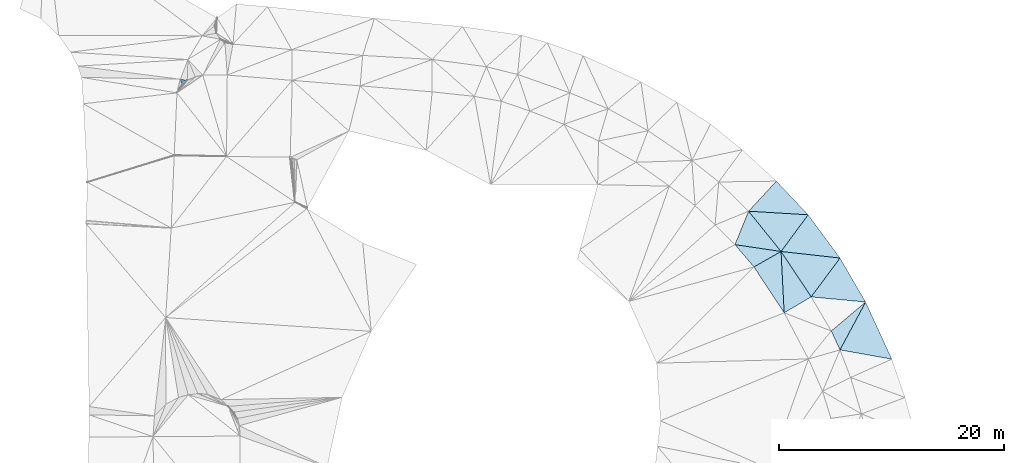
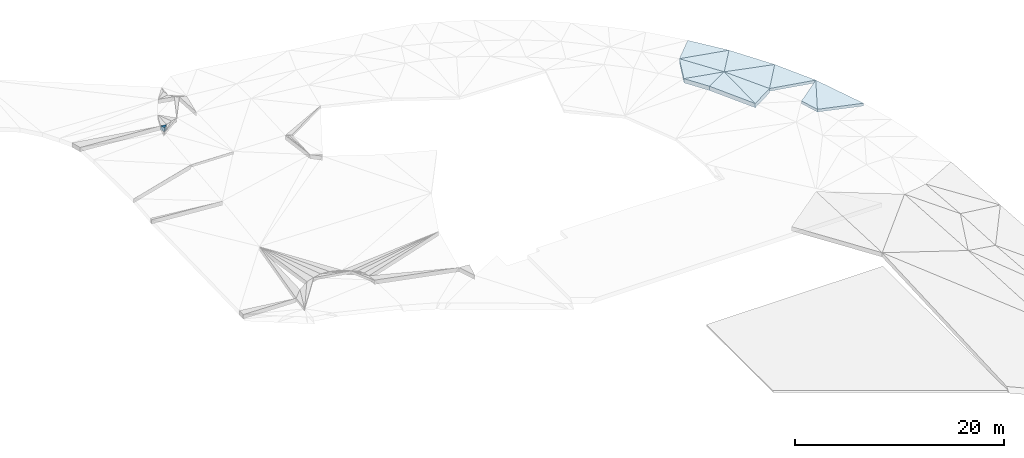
# One storey, part 11 of 23: 12 slabs, 2 elements without a shape of their own.
"""IFC2X3 building model written with IfcOpenShell, lengths in metres."""

from ifc_helpers import new_model, entity, si_unit, converted_unit, direction, frame, origin, place, context, subcontext, project, spatial, polyline, outline, extrude, material, layer, layer_set, type_object, element, aggregate, save


model = new_model("IFC2X3")

# Units and contexts
model_context = context("Model", 3, precision=1e-05, world=origin(), true_north=direction((0.7716245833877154, 0.6360782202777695)))
body_context = subcontext(model_context, "Body", "Model", "MODEL_VIEW")
ifc_project = project(units=[si_unit("LENGTHUNIT", "METRE"), converted_unit("PLANEANGLEUNIT", "DEGREE", entity("IfcPlaneAngleMeasure", 0.017453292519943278), si_unit("PLANEANGLEUNIT", "RADIAN"), dimensions=[0, 0, 0, 0, 0, 0, 0]), si_unit("AREAUNIT", "SQUARE_METRE")], contexts=[model_context])

# Site, building, storey
site_placement = place(None, origin())
site = spatial("IfcSite", under=ifc_project, at=site_placement, Name="Default", CompositionType="ELEMENT")
building_placement = place(site_placement, origin())
building = spatial("IfcBuilding", under=site, at=building_placement, Name="<Building Name>", CompositionType="ELEMENT")
storey_placement = place(building_placement, origin())
storey = spatial("IfcBuildingStorey", under=building, at=storey_placement, Name="00 - HAV", CompositionType="ELEMENT", Elevation=0.0)

# Slabs
slab_1_placement = place(storey_placement, frame((227.93461709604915, 49.93152636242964, 29.770000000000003)))
slab_1 = element("IfcSlab", 1, at=slab_1_placement, inside=storey, Name="Floor:771 Grøntarealer", ObjectType="Floor:771 Grøntarealer", PredefinedType="NOTDEFINED")
ifc_material_1 = material(Name="815 - Terrain, Grøntareal")
ifc_layer_1 = layer(ifc_material_1, 0.02)
ifc_material_2 = material(Name="Site - Soil - Jordlag")
ifc_layer_2 = layer(ifc_material_2, 0.30000000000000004)
ifc_layer_set_1 = layer_set([ifc_layer_1, ifc_layer_2], Name="Floor:771 Grøntarealer")
slab_type_1 = type_object("IfcSlabType", Name="Floor:771 Grøntarealer", PredefinedType="NOTDEFINED")
slab_2_placement = place(slab_1_placement, origin())
slab_2 = element("IfcSlab", 2, at=slab_2_placement, type_object=slab_type_1, material=ifc_layer_set_1, Name="Floor:771 Grøntarealer", ObjectType="Floor:771 Grøntarealer", PredefinedType="NOTDEFINED", context=body_context, shape_type="SweptSolid", body=[
    extrude(outline(polyline([(2.914133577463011, -1.739874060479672), (0.5820158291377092, 3.3437394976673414), (-1.7023409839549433, -0.9016243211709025), (2.914133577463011, -1.739874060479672)])), frame((57.18283415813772, 59.28913969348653, 4.231716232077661), z_axis=(0.07785830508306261, -0.04876212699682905, 0.9957712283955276), x_axis=(0.9969644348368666, 0.003808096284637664, -0.07776512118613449)), (0.07776512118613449, -0.04891059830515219, -0.9957712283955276), 0.3200000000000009),
])
slab_3_placement = place(slab_1_placement, origin())
slab_3 = element("IfcSlab", 3, at=slab_3_placement, type_object=slab_type_1, material=ifc_layer_set_1, Name="Floor:771 Grøntarealer", ObjectType="Floor:771 Grøntarealer", PredefinedType="NOTDEFINED", context=body_context, shape_type="SweptSolid", body=[
    extrude(outline(polyline([(2.8506971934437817, -0.9558728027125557), (0.5679117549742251, 2.952565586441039), (-2.004928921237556, -0.4921972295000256), (2.8506971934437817, -0.9558728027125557)])), frame((54.92382802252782, 63.58391832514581, 4.61631229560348), z_axis=(0.08950632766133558, -0.011643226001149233, 0.9959181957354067), x_axis=(0.9959862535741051, 0.001046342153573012, -0.08950021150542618)), (0.08950021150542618, -0.011690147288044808, -0.9959181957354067), 0.3200000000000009),
])
slab_4_placement = place(slab_1_placement, origin())
slab_4 = element("IfcSlab", 4, at=slab_4_placement, type_object=slab_type_1, material=ifc_layer_set_1, Name="Floor:771 Grøntarealer", ObjectType="Floor:771 Grøntarealer", PredefinedType="NOTDEFINED", context=body_context, shape_type="SweptSolid", body=[
    extrude(outline(polyline([(1.1482541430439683, 2.1194014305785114), (-1.93067311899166, -0.42655750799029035), (-1.148254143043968, -2.1194014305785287), (1.1482541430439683, 2.1194014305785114)])), frame((56.62437199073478, 60.50660271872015, 4.335000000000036), z_axis=(0.12865652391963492, -0.07594021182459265, 0.9887773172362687), x_axis=(0.9916892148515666, 0.009852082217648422, -0.12827874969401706)), (0.12827874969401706, -0.07657662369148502, -0.9887773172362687), 0.3200000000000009),
])
slab_5_placement = place(slab_1_placement, origin())
slab_5 = element("IfcSlab", 5, at=slab_5_placement, type_object=slab_type_1, material=ifc_layer_set_1, Name="Floor:771 Grøntarealer", ObjectType="Floor:771 Grøntarealer", PredefinedType="NOTDEFINED", context=body_context, shape_type="SweptSolid", body=[
    extrude(outline(polyline([(2.985511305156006, -0.7597663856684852), (0.13790446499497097, 3.0775810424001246), (-2.288689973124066, -0.17924861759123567), (2.985511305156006, -0.7597663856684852)])), frame((52.52543854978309, 67.29766899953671, 4.955376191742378), z_axis=(0.11976673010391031, 0.002858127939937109, 0.9927979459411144), x_axis=(0.9928020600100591, -0.0003447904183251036, -0.11976623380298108)), (0.11976623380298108, 0.0028788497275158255, -0.9927979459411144), 0.3200000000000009),
])
slab_6_placement = place(slab_1_placement, origin())
slab_6 = element("IfcSlab", 6, at=slab_6_placement, type_object=slab_type_1, material=ifc_layer_set_1, Name="Floor:771 Grøntarealer", ObjectType="Floor:771 Grøntarealer", PredefinedType="NOTDEFINED", context=body_context, shape_type="SweptSolid", body=[
    extrude(outline(polyline([(2.846354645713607, 1.5420045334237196), (-2.4254375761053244, 2.144006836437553), (0.2664410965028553, -1.89746433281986), (2.846354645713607, 1.5420045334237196)])), frame((52.66230222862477, 64.98518979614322, 4.880995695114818), z_axis=(0.11594408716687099, -0.03147014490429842, 0.9927570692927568), x_axis=(0.9932557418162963, 0.0036735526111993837, -0.11588587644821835)), (0.11588587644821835, -0.03168382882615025, -0.9927570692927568), 0.3200000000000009),
])
slab_7_placement = place(slab_1_placement, origin())
slab_7 = element("IfcSlab", 7, at=slab_7_placement, type_object=slab_type_1, material=ifc_layer_set_1, Name="Floor:771 Grøntarealer", ObjectType="Floor:771 Grøntarealer", PredefinedType="NOTDEFINED", context=body_context, shape_type="SweptSolid", body=[
    extrude(outline(polyline([(2.740825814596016, -0.23346278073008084), (-0.10591597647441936, 2.748711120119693), (-2.591967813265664, 0.0775229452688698), (2.740825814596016, -0.23346278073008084)])), frame((49.9434437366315, 70.61203878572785, 5.273627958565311), z_axis=(0.12621653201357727, 0.009742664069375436, 0.9919548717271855), x_axis=(0.9920027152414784, -0.0012395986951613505, -0.12621044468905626)), (0.12621044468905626, 0.009821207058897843, -0.9919548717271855), 0.3200000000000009),
])
slab_8_placement = place(slab_1_placement, origin())
slab_8 = element("IfcSlab", 8, at=slab_8_placement, type_object=slab_type_1, material=ifc_layer_set_1, Name="Floor:771 Grøntarealer", ObjectType="Floor:771 Grøntarealer", PredefinedType="NOTDEFINED", context=body_context, shape_type="SweptSolid", body=[
    extrude(outline(polyline([(2.7673983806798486, 1.5349623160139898), (-2.56494640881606, 1.8535514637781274), (0.33905302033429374, -1.720562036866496), (2.7673983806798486, 1.5349623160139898)])), frame((49.91685260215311, 68.83970626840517, 5.27516015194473), z_axis=(0.12555852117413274, -0.0014929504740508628, 0.9920850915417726), x_axis=(0.9920862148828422, 0.00018894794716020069, -0.12555837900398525)), (0.12555837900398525, -0.0015048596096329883, -0.9920850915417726), 0.3200000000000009),
])
aggregate(slab_1, [slab_2, slab_3, slab_4, slab_5, slab_6, slab_7, slab_8])

slab_9_placement = place(storey_placement, frame((224.56733296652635, 45.19076679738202, 29.34)))
slab_9 = element("IfcSlab", 9, at=slab_9_placement, inside=storey, Name="Floor:761 Asfalt - Gangarealer", ObjectType="Floor:761 Asfalt - Gangarealer", PredefinedType="NOTDEFINED")
ifc_material_3 = material(Name="Site - Aspahlt - Pulverasfalt")
ifc_layer_3 = layer(ifc_material_3, 0.025)
ifc_material_4 = material(Name="A_Default_Building_Part")
ifc_layer_4 = layer(ifc_material_4, 0.05)
ifc_material_5 = material(Name="Site - Gravel - Stabilitet grus")
ifc_layer_5 = layer(ifc_material_5, 0.1)
ifc_material_6 = material(Name="Site - Gravel - Bunnsikringsgrus")
ifc_layer_6 = layer(ifc_material_6, 0.325)
ifc_layer_set_2 = layer_set([ifc_layer_3, ifc_layer_4, ifc_layer_5, ifc_layer_6], Name="Floor:761 Asfalt - Gangarealer")
slab_type_2 = type_object("IfcSlabType", Name="Floor:761 Asfalt - Gangarealer", PredefinedType="NOTDEFINED")
slab_10_placement = place(slab_9_placement, origin())
slab_10 = element("IfcSlab", 10, at=slab_10_placement, type_object=slab_type_2, material=ifc_layer_set_2, Name="Floor:761 Asfalt - Gangarealer", ObjectType="Floor:761 Asfalt - Gangarealer", PredefinedType="NOTDEFINED", context=body_context, shape_type="SweptSolid", body=[
    extrude(outline(polyline([(-0.34364048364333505, 0.13990618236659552), (-0.1822167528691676, -0.32320206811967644), (0.2794137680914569, 0.044353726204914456), (-0.34364048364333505, 0.13990618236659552)])), frame((0.6445588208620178, 87.00547202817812, 8.758439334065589), z_axis=(-0.006976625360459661, 0.0087617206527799, 0.9999372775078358), x_axis=(0.9999756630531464, 6.112873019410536e-05, 0.006976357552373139)), (-0.006976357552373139, 0.008761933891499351, -0.9999372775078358), 0.49999999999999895),
])
slab_11_placement = place(slab_9_placement, origin())
slab_11 = element("IfcSlab", 11, at=slab_11_placement, type_object=slab_type_2, material=ifc_layer_set_2, Name="Floor:761 Asfalt - Gangarealer", ObjectType="Floor:761 Asfalt - Gangarealer", PredefinedType="NOTDEFINED", context=body_context, shape_type="SweptSolid", body=[
    extrude(outline(polyline([(-2.0477690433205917, 0.3151459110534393), (-0.36088563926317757, -1.6834596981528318), (2.0477690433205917, -0.3151459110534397), (-2.0477690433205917, 0.3151459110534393)])), frame((51.5754264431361, 72.16344520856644, 5.795000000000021), z_axis=(0.0512296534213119, -0.09693501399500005, 0.9939713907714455), x_axis=(0.9986868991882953, 0.00497247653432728, -0.050987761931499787)), (0.050987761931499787, -0.0970624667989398, -0.9939713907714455), 0.49999999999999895),
])
slab_12_placement = place(slab_9_placement, origin())
slab_12 = element("IfcSlab", 12, at=slab_12_placement, type_object=slab_type_2, material=ifc_layer_set_2, Name="Floor:761 Asfalt - Gangarealer", ObjectType="Floor:761 Asfalt - Gangarealer", PredefinedType="NOTDEFINED", context=body_context, shape_type="SweptSolid", body=[
    extrude(outline(polyline([(-2.2820434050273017, -1.2294733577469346), (1.8148579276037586, -1.8508423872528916), (-1.0709081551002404, 1.738008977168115), (-2.2820434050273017, -1.2294733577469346)])), frame((51.808634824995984, 73.70185779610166, 5.86951443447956), z_axis=(0.05734214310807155, -0.0569699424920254, 0.9967277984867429), x_axis=(0.998354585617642, 0.003272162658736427, -0.057248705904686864)), (0.057248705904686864, -0.05706383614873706, -0.9967277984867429), 0.49999999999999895),
])
slab_13_placement = place(slab_9_placement, origin())
slab_13 = element("IfcSlab", 13, at=slab_13_placement, type_object=slab_type_2, material=ifc_layer_set_2, Name="Floor:761 Asfalt - Gangarealer", ObjectType="Floor:761 Asfalt - Gangarealer", PredefinedType="NOTDEFINED", context=body_context, shape_type="SweptSolid", body=[
    extrude(outline(polyline([(-2.499456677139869, 1.292055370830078), (0.1870797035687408, -2.807435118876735), (-0.09145348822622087, 2.661515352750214), (-2.499456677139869, 1.292055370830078)])), frame((53.71186467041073, 69.20897577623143, 5.423542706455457), z_axis=(0.04565870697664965, -0.08718917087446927, 0.9951448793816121), x_axis=(0.9989570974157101, 0.003985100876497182, -0.045484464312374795)), (0.045484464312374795, -0.08728019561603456, -0.9951448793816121), 0.49999999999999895),
])
slab_14_placement = place(slab_9_placement, origin())
slab_14 = element("IfcSlab", 14, at=slab_14_placement, type_object=slab_type_2, material=ifc_layer_set_2, Name="Floor:761 Asfalt - Gangarealer", ObjectType="Floor:761 Asfalt - Gangarealer", PredefinedType="NOTDEFINED", context=body_context, shape_type="SweptSolid", body=[
    extrude(outline(polyline([(0.03538980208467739, -2.7958201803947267), (2.43204303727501, -1.3795033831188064), (-0.24298903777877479, 2.673138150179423), (0.03538980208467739, -2.7958201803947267)])), frame((53.863376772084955, 69.19787350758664, 5.41716551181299), z_axis=(0.03126960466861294, -0.08796805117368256, 0.9956323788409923), x_axis=(0.9995109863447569, 0.0027520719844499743, -0.03114826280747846)), (0.03114826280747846, -0.08801108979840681, -0.9956323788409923), 0.49999999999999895),
])
aggregate(slab_9, [slab_10, slab_11, slab_12, slab_13, slab_14])

save(model, "model.ifc")
